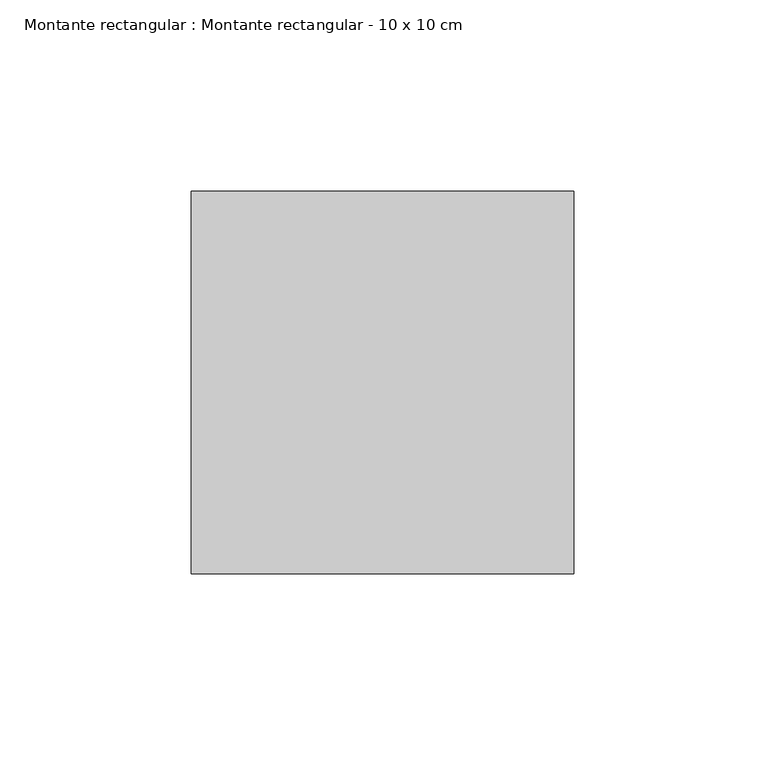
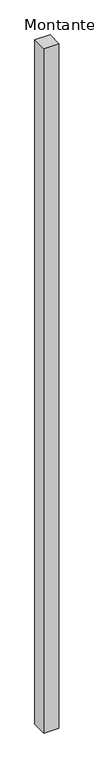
"""IFC4 building model written with IfcOpenShell, lengths in millimetres: member geometry, Montante rectangular : Montante rectangular - 10 x 10 cm."""

import ifcopenshell
import ifcopenshell.guid

model = None  # the IFC model being written
_history = None  # IfcOwnerHistory: only IFC2X3 demands one
_inside = {}  # id of a spatial element -> (the spatial element, [elements in it])
_under = {}  # id of a project, library or spatial element -> (it, [spatial elements below it])
_declared = {}  # id of a project -> (the project, [libraries it declares])
_typed = {}  # id of a type object -> (the type object, [elements of that type])
_made_of = {}  # id of a material, layer set ... -> (it, [elements and type objects made of it])


def new_model(schema):
    """Start an empty IFC model of exactly this schema.

    Asked for "IFC4X3", IfcOpenShell would pick the latest addendum, in which some entities
    have other attributes; the version numbers below select the first issue.
    IFC2X3 requires an IfcOwnerHistory on every rooted entity: one is made here for all.
    """
    global model, _history
    if schema == "IFC4X3":
        model = ifcopenshell.file(schema_version=(4, 3, 0, 0))
    else:
        model = ifcopenshell.file(schema=schema)
    _inside.clear()
    _under.clear()
    _declared.clear()
    _typed.clear()
    _made_of.clear()
    _history = None
    if model.schema == "IFC2X3":
        org = make("IfcOrganization", Name="unknown")
        user = make(
            "IfcPersonAndOrganization",
            ThePerson=make("IfcPerson", FamilyName="unknown"),
            TheOrganization=org,
        )
        app = make(
            "IfcApplication",
            ApplicationDeveloper=org,
            Version="unknown",
            ApplicationFullName="unknown",
            ApplicationIdentifier="unknown",
        )
        _history = make(
            "IfcOwnerHistory",
            OwningUser=user,
            OwningApplication=app,
            ChangeAction="ADDED",
            CreationDate=0,
        )
    return model


def make(cls, **values):
    """One entity of the class cls with the attributes given. An attribute that is None is left unset."""
    return model.create_entity(
        cls, **{name: value for name, value in values.items() if value is not None}
    )


def rooted(cls, **values):
    """An entity with a GlobalId (a new one), such as an element, a storey or a relation."""
    return make(cls, GlobalId=ifcopenshell.guid.new(), OwnerHistory=_history, **values)


def si_unit(unit_type, name, prefix=None):
    """IfcSIUnit, for example si_unit("LENGTHUNIT", "METRE", prefix="MILLI")."""
    return make("IfcSIUnit", UnitType=unit_type, Prefix=prefix, Name=name)


def assignment(units):
    """IfcUnitAssignment: the units of a project."""
    return None if units is None else make("IfcUnitAssignment", Units=units)


def point(xyz):
    """IfcCartesianPoint."""
    return None if xyz is None else make("IfcCartesianPoint", Coordinates=xyz)


def direction(xyz):
    """IfcDirection."""
    return None if xyz is None else make("IfcDirection", DirectionRatios=xyz)


def frame(location, z_axis=None, x_axis=None):
    """IfcAxis2Placement3D, a coordinate frame: its origin and axes. An axis left out is left unset."""
    return make(
        "IfcAxis2Placement3D",
        Location=point(location),
        Axis=direction(z_axis),
        RefDirection=direction(x_axis),
    )


def origin():
    """The frame at (0, 0, 0) with its axes left unset."""
    return frame((0.0, 0.0, 0.0))


def place(relative_to, where):
    """IfcLocalPlacement: puts the frame where relative to a parent placement (None: the world)."""
    return make(
        "IfcLocalPlacement", PlacementRelTo=relative_to, RelativePlacement=where
    )


def context(
    kind, dimensions, precision=None, world=None, true_north=None, identifier=None
):
    """IfcGeometricRepresentationContext, for example the 3D "Model" context."""
    return make(
        "IfcGeometricRepresentationContext",
        ContextIdentifier=identifier,
        ContextType=kind,
        CoordinateSpaceDimension=dimensions,
        Precision=precision,
        WorldCoordinateSystem=world,
        TrueNorth=true_north,
    )


def project(units=None, contexts=None):
    """IfcProject with its units and contexts."""
    return rooted(
        "IfcProject",
        Name="project",
        RepresentationContexts=contexts,
        UnitsInContext=assignment(units),
    )


def spatial(cls, under=None, at=None, **own):
    """A site, building, storey or space (cls), placed at a placement, below another one or the project."""
    s = rooted(cls, ObjectPlacement=at, **own)
    if under is not None:
        _under.setdefault(under.id(), (under, []))[1].append(s)
    return s


def polyline(points):
    """IfcPolyline through the points."""
    return make("IfcPolyline", Points=[point(p) for p in points])


def outline(outer, holes=None, kind="AREA"):
    """IfcArbitraryClosedProfileDef: a profile drawn as a closed curve; with holes, ...WithVoids."""
    if holes is None:
        return make("IfcArbitraryClosedProfileDef", ProfileType=kind, OuterCurve=outer)
    return make(
        "IfcArbitraryProfileDefWithVoids",
        ProfileType=kind,
        OuterCurve=outer,
        InnerCurves=holes,
    )


def extrude(swept, where, along, depth):
    """IfcExtrudedAreaSolid: the profile swept, set in the frame where, extruded along a direction by depth."""
    return make(
        "IfcExtrudedAreaSolid",
        SweptArea=swept,
        Position=where,
        ExtrudedDirection=direction(along),
        Depth=depth,
    )


def shape(context_of_items, identifier, shape_type, items):
    """IfcShapeRepresentation: the items that make up one representation, for example the "Body"."""
    return make(
        "IfcShapeRepresentation",
        ContextOfItems=context_of_items,
        RepresentationIdentifier=identifier,
        RepresentationType=shape_type,
        Items=items,
    )


def source(mapping_origin, context_of_items, identifier, shape_type, items):
    """IfcRepresentationMap: a shape defined once, which mapped items show again and again."""
    return make(
        "IfcRepresentationMap",
        MappingOrigin=mapping_origin,
        MappedRepresentation=shape(context_of_items, identifier, shape_type, items),
    )


def transform(
    local_origin,
    x_axis=None,
    y_axis=None,
    z_axis=None,
    scale=None,
    scale2=None,
    scale3=None,
    uniform=True,
):
    """IfcCartesianTransformationOperator3D, or its non-uniform kind. x_axis, y_axis, z_axis: its Axis1, 2, 3."""
    if uniform:
        return make(
            "IfcCartesianTransformationOperator3D",
            Axis1=direction(x_axis),
            Axis2=direction(y_axis),
            LocalOrigin=point(local_origin),
            Scale=scale,
            Axis3=direction(z_axis),
        )
    return make(
        "IfcCartesianTransformationOperator3DnonUniform",
        Axis1=direction(x_axis),
        Axis2=direction(y_axis),
        LocalOrigin=point(local_origin),
        Scale=scale,
        Axis3=direction(z_axis),
        Scale2=scale2,
        Scale3=scale3,
    )


def mapped(mapping_source, mapping_target):
    """IfcMappedItem: shows the shape of a source again, moved by a transform."""
    return make(
        "IfcMappedItem", MappingSource=mapping_source, MappingTarget=mapping_target
    )


def made_of(thing, what):
    """Note that an element or type object is made of a material, layer set ...; save() writes the relation."""
    if what is not None:
        _made_of.setdefault(what.id(), (what, []))[1].append(thing)
    return thing


def element(
    cls,
    number,
    at=None,
    inside=None,
    cuts=None,
    type_object=None,
    material=None,
    context=None,
    identifier="Body",
    shape_type=None,
    held_by="IfcProductDefinitionShape",
    body=None,
    shapes=None,
    **own,
):
    """One element of the class cls, such as IfcWall. Its Tag is "e" and its number.

    at: its placement. inside: the storey or other place that contains it. cuts: it is an
    opening in that element (IfcRelVoidsElement). A single representation is given by context,
    identifier, shape_type and body (its items); several are given by shapes. held_by: the class
    of the entity that holds the representations. save() writes the other relations.
    """
    e = rooted(cls, Tag="e%d" % number, ObjectPlacement=at, **own)
    if body is not None:
        shapes = [shape(context, identifier, shape_type, body)]
    if shapes is not None:
        e.Representation = make(held_by, Representations=shapes)
    if inside is not None:
        _inside.setdefault(inside.id(), (inside, []))[1].append(e)
    if cuts is not None:
        rooted(
            "IfcRelVoidsElement", RelatingBuildingElement=cuts, RelatedOpeningElement=e
        )
    if type_object is not None:
        _typed.setdefault(type_object.id(), (type_object, []))[1].append(e)
    return made_of(e, material)


def aggregate(whole, parts):
    """IfcRelAggregates: a whole, such as a stair, and the parts it consists of."""
    return rooted("IfcRelAggregates", RelatingObject=whole, RelatedObjects=parts)


def save(model, path):
    """Write the relations noted so far, then the file.

    IfcRelAggregates (storeys below a building ...), IfcRelContainedInSpatialStructure (elements
    in a storey), IfcRelDefinesByType, IfcRelAssociatesMaterial and IfcRelDeclares: one each for
    every whole, place, type object, material and project.
    """
    for whole, parts in _under.values():
        aggregate(whole, parts)
    for where, things in _inside.values():
        rooted(
            "IfcRelContainedInSpatialStructure",
            RelatedElements=things,
            RelatingStructure=where,
        )
    for kind, things in _typed.values():
        rooted("IfcRelDefinesByType", RelatedObjects=things, RelatingType=kind)
    for what, things in _made_of.values():
        rooted("IfcRelAssociatesMaterial", RelatedObjects=things, RelatingMaterial=what)
    for by, libraries in _declared.values():
        rooted("IfcRelDeclares", RelatingContext=by, RelatedDefinitions=libraries)
    model.write(path)


def montante_rectangular_montante_rectangular_10_x_10_cm_ffe52684(model_context):
    return source(origin(), model_context, "Body", "SweptSolid", [
        extrude(outline(polyline([(0.0, -50.0), (-100.0, -50.0), (-100.0, 50.0), (0.0, 50.0), (0.0, -50.0)])), frame((0.0, 0.0, -4788.6318803), z_axis=(0.0, 0.0, 1.0), x_axis=(1.0, 0.0, 0.0)), (0.0, 0.0, 1.0), 4788.6318803),
    ])


if __name__ == "__main__":
    model = new_model("IFC4")
    model_context = context("Model", 3, world=origin())
    ifc_project = project(units=[si_unit("LENGTHUNIT", "METRE", prefix="MILLI")], contexts=[model_context])
    site = spatial("IfcSite", under=ifc_project)
    building = spatial("IfcBuilding", under=site)
    placement = place(None, origin())
    montante_rectangular_montante_rectangular_10_x_10_cm_shape = montante_rectangular_montante_rectangular_10_x_10_cm_ffe52684(model_context)
    element("IfcMember", 1, ObjectType="Montante rectangular : Montante rectangular - 10 x 10 cm", at=placement, inside=building, context=model_context, shape_type="MappedRepresentation", body=[
        mapped(montante_rectangular_montante_rectangular_10_x_10_cm_shape, transform((0.0, 0.0, 0.0), x_axis=(1.0, 0.0, 0.0), y_axis=(0.0, 1.0, 0.0), z_axis=(0.0, 0.0, 1.0))),
    ])
    save(model, "model.ifc")
